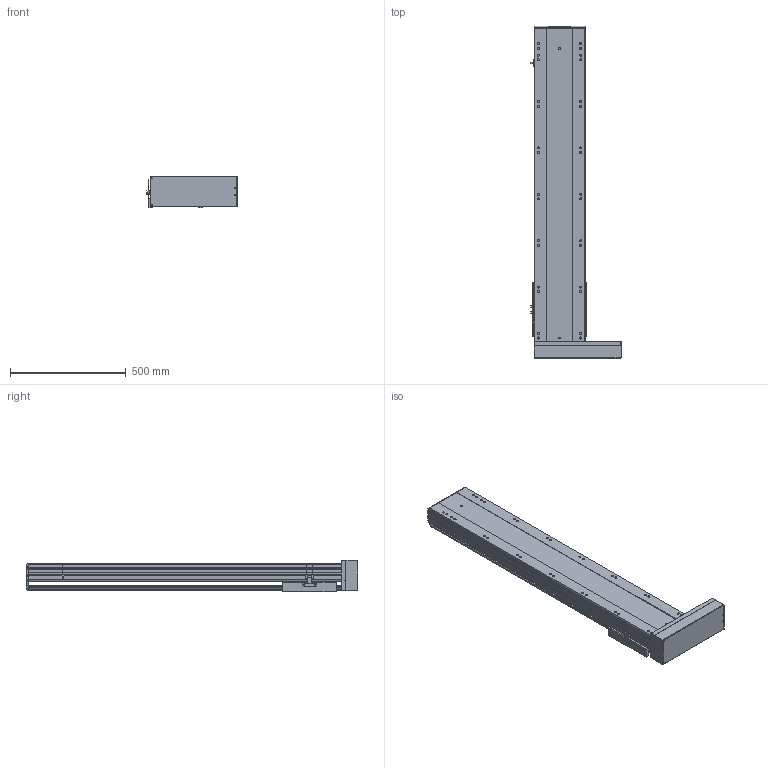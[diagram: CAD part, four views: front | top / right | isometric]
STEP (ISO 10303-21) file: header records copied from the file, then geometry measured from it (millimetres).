
FILE_DESCRIPTION (( 'STEP AP203' ), '1' );
FILE_NAME ('BTH22-L05-1050-BR-PCD145-M6-95.STEP', '2022-05-07T02:42:39', ( 'CXY' ), ( 'BT' ), 'SwSTEP 2.0', 'SolidWorks 2016', '' );
FILE_SCHEMA (( 'CONFIG_CONTROL_DESIGN' ));
Length unit declared in the file: millimetre
Products named in the file (7): BTH22-BR-04; BTH22-BR-06-PCD145; BTH22-BR-HZ; BTH22-BR-01; BTH22-BR-菁釱; H130-PCD145; BTH22-L05-1050-BR-PCD145-M6-95
Assembly tree (8 placements, depth 2):
  BTH22-L05-1050-BR-PCD145-M6-95
    BTH22-BR-菁釱
    BTH22-BR-01
    BTH22-BR-04  x3
    BTH22-BR-HZ
    BTH22-BR-06-PCD145
    H130-PCD145
Bounding box: 389.2 x 1432 x 134 mm (x, y, z)
Volume: 17590115.5 mm3; surface area: 2391313.2 mm2
Topology: 11 solids, 11 shells, 1245 faces, 3446 edges, 2241 vertices
Faces by surface type: plane 668, cylinder 445, bspline 90, cone 42
Entity records: 125113 total; most frequent: CARTESIAN_POINT 57082, ORIENTED_EDGE 14511, DIRECTION 12819, EDGE_CURVE 7761, VERTEX_POINT 5054, AXIS2_PLACEMENT_3D 4704, VECTOR 3411, LINE 3411
